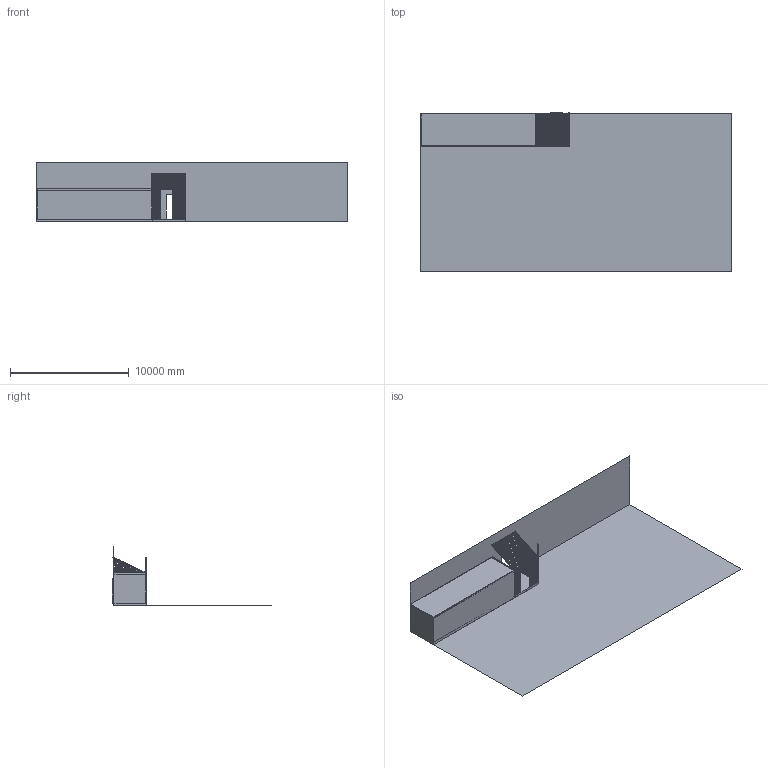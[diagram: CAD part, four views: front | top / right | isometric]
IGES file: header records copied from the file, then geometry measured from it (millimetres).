
Global section: file name: C:\Users\timo\Google Drive\SasPFC\relev; native system: Rhinoceros ( Jun 24 2014 ); preprocessor: Trout Lake IGES 012 Jun 24 2014; date: 151204.135415; units: centimetre
Bounding box: 26170.17 x 13424.99 x 5000 mm (x, y, z)
Surface area: 788393528.8 mm2 (no closed solid volume)
Topology: 0 solids, 0 shells, 928 faces, 3785 edges, 3790 vertices
Faces by surface type: bspline 928
